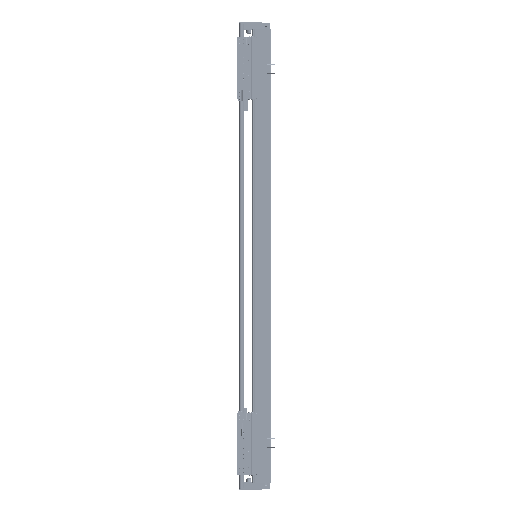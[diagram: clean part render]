
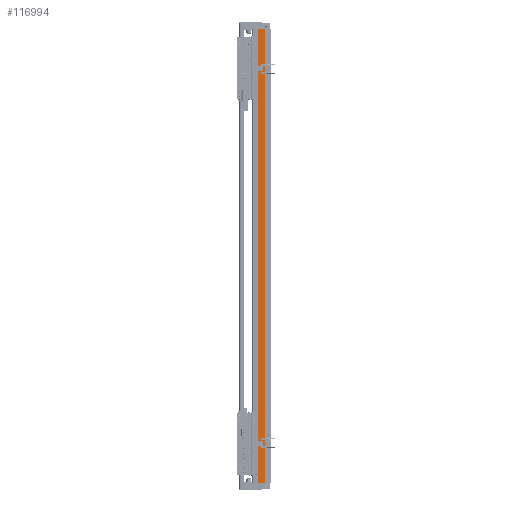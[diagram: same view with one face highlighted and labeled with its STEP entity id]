
A CAD part, left-side view. The second image highlights one B-rep face of the part: STEP entity #116994.
In plain terms, the highlighted planar face has unit normal (-1, 0, 0).
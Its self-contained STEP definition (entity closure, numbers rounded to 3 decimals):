
#499 = DIRECTION ( 'NONE',  ( 1., 0., 0. ) ) ;
#2904 = FACE_OUTER_BOUND ( 'NONE', #48066, .T. ) ;
#21232 = CARTESIAN_POINT ( 'NONE',  ( -97.5, 36.95, 690. ) ) ;
#23882 = LINE ( 'NONE', #122890, #93788 ) ;
#40103 = LINE ( 'NONE', #139908, #106421 ) ;
#40119 = AXIS2_PLACEMENT_3D ( 'NONE', #152639, #499, #101215 ) ;
#44090 = EDGE_CURVE ( 'NONE', #153499, #79836, #40103, .T. ) ;
#45418 = CARTESIAN_POINT ( 'NONE',  ( -97.5, 14.45, 690. ) ) ;
#48066 = EDGE_LOOP ( 'NONE', ( #117654, #103887, #88836, #118685 ) ) ;
#62772 = VERTEX_POINT ( 'NONE', #45418 ) ;
#69745 = CARTESIAN_POINT ( 'NONE',  ( -97.5, 36.95, -690. ) ) ;
#77474 = LINE ( 'NONE', #99640, #102376 ) ;
#79836 = VERTEX_POINT ( 'NONE', #69745 ) ;
#85735 = CARTESIAN_POINT ( 'NONE',  ( -97.5, 36.95, 690. ) ) ;
#88836 = ORIENTED_EDGE ( 'NONE', *, *, #144434, .F. ) ;
#93204 = VECTOR ( 'NONE', #158681, 1000. ) ;
#93788 = VECTOR ( 'NONE', #150649, 1000. ) ;
#99640 = CARTESIAN_POINT ( 'NONE',  ( -97.5, 36.95, -690. ) ) ;
#101215 = DIRECTION ( 'NONE',  ( 0., 1., 0. ) ) ;
#102376 = VECTOR ( 'NONE', #138816, 1000. ) ;
#102794 = PLANE ( 'NONE',  #40119 ) ;
#103887 = ORIENTED_EDGE ( 'NONE', *, *, #135371, .F. ) ;
#106421 = VECTOR ( 'NONE', #127682, 1000. ) ;
#113324 = CARTESIAN_POINT ( 'NONE',  ( -97.5, 14.45, -690. ) ) ;
#116994 = ADVANCED_FACE ( 'NONE', ( #2904 ), #102794, .F. ) ;
#117654 = ORIENTED_EDGE ( 'NONE', *, *, #125420, .T. ) ;
#118685 = ORIENTED_EDGE ( 'NONE', *, *, #44090, .T. ) ;
#122890 = CARTESIAN_POINT ( 'NONE',  ( -97.5, 14.45, 690. ) ) ;
#125420 = EDGE_CURVE ( 'NONE', #79836, #156009, #77474, .T. ) ;
#127682 = DIRECTION ( 'NONE',  ( 0., 0., -1. ) ) ;
#133349 = LINE ( 'NONE', #21232, #93204 ) ;
#135371 = EDGE_CURVE ( 'NONE', #62772, #156009, #23882, .T. ) ;
#138816 = DIRECTION ( 'NONE',  ( 0., -1., 0. ) ) ;
#139908 = CARTESIAN_POINT ( 'NONE',  ( -97.5, 36.95, 690. ) ) ;
#144434 = EDGE_CURVE ( 'NONE', #153499, #62772, #133349, .T. ) ;
#150649 = DIRECTION ( 'NONE',  ( 0., 0., -1. ) ) ;
#152639 = CARTESIAN_POINT ( 'NONE',  ( -97.5, 36.95, 690. ) ) ;
#153499 = VERTEX_POINT ( 'NONE', #85735 ) ;
#156009 = VERTEX_POINT ( 'NONE', #113324 ) ;
#158681 = DIRECTION ( 'NONE',  ( 0., -1., 0. ) ) ;
